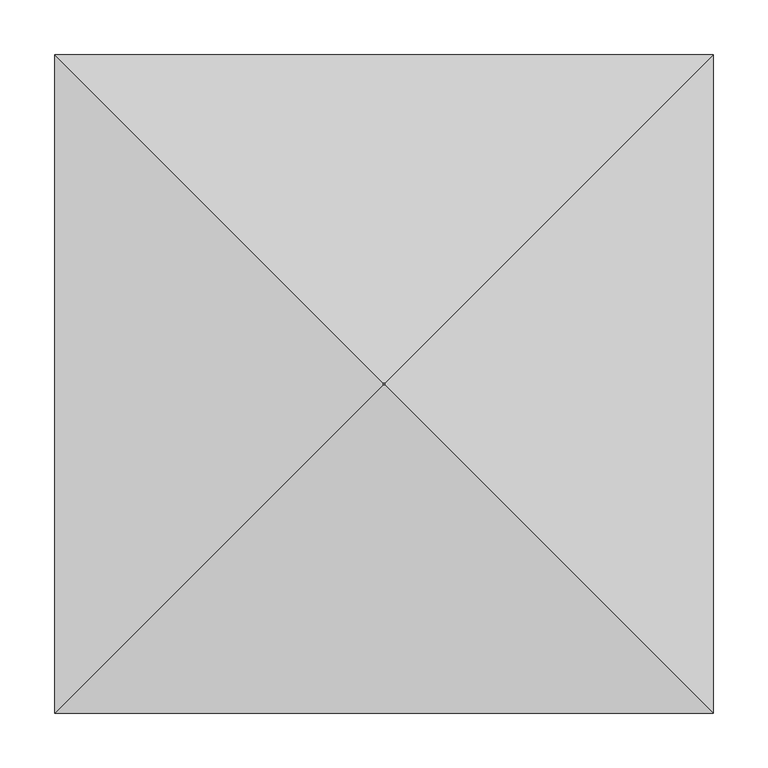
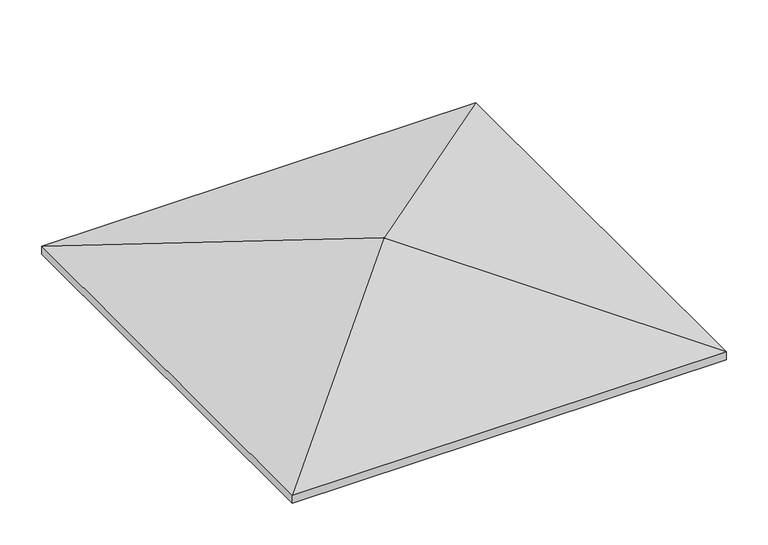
"""IFC4 building model written with IfcOpenShell, lengths in millimetres: proxy geometry, Offecct - Spiegel Panel - Low : Offecct - Spiegel Panel - Low."""

from ifc_helpers import new_model, si_unit, origin, origin_with_axes, place, context, project, spatial, polyline, outline, extrude, faceted_brep, source, transform, mapped, element, save


def generic_models_07637b28(model_context):
    return source(origin(), model_context, "Body", "SolidModel", [
        faceted_brep([(0.5, 0.5, 100.6580242), (-0.5, 0.5, 100.6580242), (-0.5, -0.5, 100.6580242), (0.5, -0.5, 100.6580242), (300.0, 300.0, 11.5689886), (300.0, -300.0, 11.5689886), (-300.0, -300.0, 11.5689886), (-300.0, 300.0, 11.5689886)], [[[0, 1, 2, 3]], [[4, 5, 6, 7]], [[4, 7, 1, 0]], [[7, 6, 2, 1]], [[6, 5, 3, 2]], [[5, 4, 0, 3]]]),
        extrude(outline(polyline([(-300.0, 300.0), (300.0, 300.0), (300.0, -300.0), (-300.0, -300.0), (-300.0, 300.0)])), origin_with_axes(), (0.0, 0.0, 1.0), 11.5689886),
    ])


if __name__ == "__main__":
    model = new_model("IFC4")
    model_context = context("Model", 3, world=origin())
    ifc_project = project(units=[si_unit("LENGTHUNIT", "METRE", prefix="MILLI")], contexts=[model_context])
    site = spatial("IfcSite", under=ifc_project)
    building = spatial("IfcBuilding", under=site)
    placement = place(None, origin())
    generic_models_shape = generic_models_07637b28(model_context)
    element("IfcBuildingElementProxy", 1, Name="Offecct - Spiegel Panel - Low : Offecct - Spiegel Panel - Low", ObjectType="Offecct - Spiegel Panel - Low : Offecct - Spiegel Panel - Low", at=placement, inside=building, context=model_context, shape_type="MappedRepresentation", body=[
        mapped(generic_models_shape, transform((0.0, 0.0, 0.0), x_axis=(1.0, 0.0, 0.0), y_axis=(0.0, 1.0, 0.0), z_axis=(0.0, 0.0, 1.0))),
    ])
    save(model, "model.ifc")
